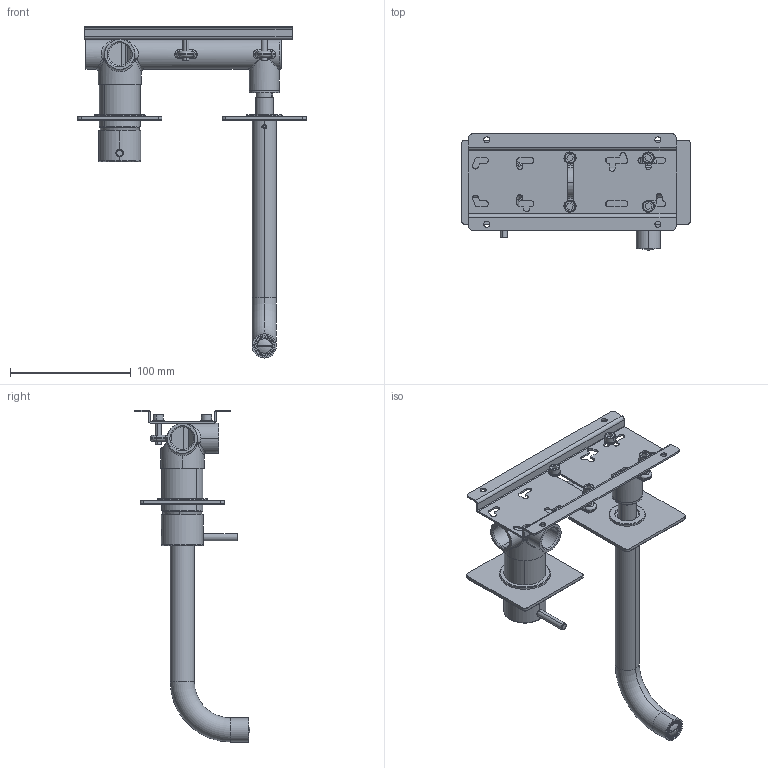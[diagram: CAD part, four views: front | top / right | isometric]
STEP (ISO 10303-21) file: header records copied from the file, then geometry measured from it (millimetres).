
FILE_DESCRIPTION (( 'STEP AP203' ), '1' );
FILE_NAME ('MMN84.STEP', '2023-11-28T07:23:53', ( '' ), ( '' ), 'SwSTEP 2.0', 'SolidWorks 2021', '' );
FILE_SCHEMA (( 'CONFIG_CONTROL_DESIGN' ));
Length unit declared in the file: millimetre
Products named in the file (25): C12.00.0008; C25.2348.00.1; C11.10.0019; C47.00.0023.01; C10.00.0020; C11.14.0009; C24.2659.00; C21.1428.00.0; C11.12.0020; C18.23.0004; C24.2580.00.0; C24.0120.00.1; C24.2663.00; C24.1560.00.0; MMN84; EU0705_0; C24.1955.00.1; ING84; C24.1931.00.0; C24.2658.00; C12.00.0032; C13.00.0043; C12.00.0020; C12.00.0051; C11.14.0003
Assembly tree (32 placements, depth 3):
  MMN84
    C24.1931.00.0
    C13.00.0043
    C11.14.0003
    C12.00.0032
    C12.00.0020
    EU0705_0
    C11.14.0009
    C47.00.0023.01
    ING84
      C21.1428.00.0
      C18.23.0004
      C24.1955.00.1
      C12.00.0008
      C12.00.0051  x3
      C10.00.0020
      C11.10.0019  x4
      C11.12.0020  x4
      C25.2348.00.1
    C24.1560.00.0
    C24.0120.00.1
    C24.2580.00.0
    C24.2663.00
    C24.2658.00
    C24.2659.00
Bounding box: 190 x 95.99 x 275.5 mm (x, y, z)
Volume: 190721.5 mm3; surface area: 160256.4 mm2
Topology: 33 solids, 33 shells, 1131 faces, 2665 edges, 1657 vertices
Faces by surface type: cylinder 444, plane 412, cone 117, torus 112, bspline 46
Entity records: 37426 total; most frequent: CARTESIAN_POINT 10463, DIRECTION 5286, ORIENTED_EDGE 4868, EDGE_CURVE 2434, AXIS2_PLACEMENT_3D 2084, VERTEX_POINT 1523, EDGE_LOOP 1163, LINE 1118
